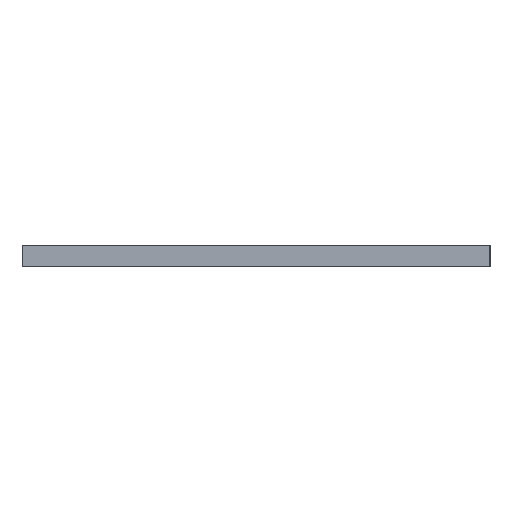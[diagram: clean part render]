
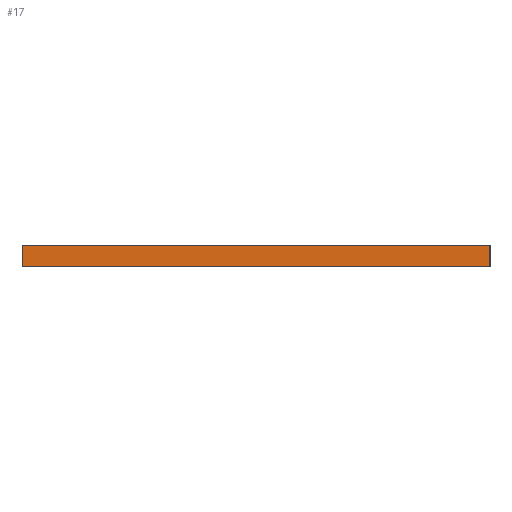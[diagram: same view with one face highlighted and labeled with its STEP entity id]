
A CAD part, left-side view. The second image highlights one B-rep face of the part: STEP entity #17.
In plain terms, the highlighted planar face has unit normal (-1, 0, 0).
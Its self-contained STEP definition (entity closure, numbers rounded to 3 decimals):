
#17 = ADVANCED_FACE('',(#18),#32,.F.);
#18 = FACE_BOUND('',#19,.F.);
#19 = EDGE_LOOP('',(#20,#55,#83,#111));
#20 = ORIENTED_EDGE('',*,*,#21,.F.);
#21 = EDGE_CURVE('',#22,#24,#26,.T.);
#22 = VERTEX_POINT('',#23);
#23 = CARTESIAN_POINT('',(-83.,-65.,791.));
#24 = VERTEX_POINT('',#25);
#25 = CARTESIAN_POINT('',(-83.,-65.,797.));
#26 = SURFACE_CURVE('',#27,(#31,#43),.PCURVE_S1.);
#27 = LINE('',#28,#29);
#28 = CARTESIAN_POINT('',(-83.,-65.,791.));
#29 = VECTOR('',#30,1.);
#30 = DIRECTION('',(0.,0.,1.));
#31 = PCURVE('',#32,#37);
#32 = PLANE('',#33);
#33 = AXIS2_PLACEMENT_3D('',#34,#35,#36);
#34 = CARTESIAN_POINT('',(-83.,-65.,791.));
#35 = DIRECTION('',(1.,0.,-0.));
#36 = DIRECTION('',(0.,0.,1.));
#37 = DEFINITIONAL_REPRESENTATION('',(#38),#42);
#38 = LINE('',#39,#40);
#39 = CARTESIAN_POINT('',(0.,0.));
#40 = VECTOR('',#41,1.);
#41 = DIRECTION('',(1.,0.));
#42 = ( GEOMETRIC_REPRESENTATION_CONTEXT(2) 
PARAMETRIC_REPRESENTATION_CONTEXT() REPRESENTATION_CONTEXT('2D SPACE',''
  ) );
#43 = PCURVE('',#44,#49);
#44 = PLANE('',#45);
#45 = AXIS2_PLACEMENT_3D('',#46,#47,#48);
#46 = CARTESIAN_POINT('',(-83.,-65.,791.));
#47 = DIRECTION('',(-0.,1.,0.));
#48 = DIRECTION('',(0.,0.,1.));
#49 = DEFINITIONAL_REPRESENTATION('',(#50),#54);
#50 = LINE('',#51,#52);
#51 = CARTESIAN_POINT('',(0.,0.));
#52 = VECTOR('',#53,1.);
#53 = DIRECTION('',(1.,0.));
#54 = ( GEOMETRIC_REPRESENTATION_CONTEXT(2) 
PARAMETRIC_REPRESENTATION_CONTEXT() REPRESENTATION_CONTEXT('2D SPACE',''
  ) );
#55 = ORIENTED_EDGE('',*,*,#56,.T.);
#56 = EDGE_CURVE('',#22,#57,#59,.T.);
#57 = VERTEX_POINT('',#58);
#58 = CARTESIAN_POINT('',(-83.,65.,791.));
#59 = SURFACE_CURVE('',#60,(#64,#71),.PCURVE_S1.);
#60 = LINE('',#61,#62);
#61 = CARTESIAN_POINT('',(-83.,-65.,791.));
#62 = VECTOR('',#63,1.);
#63 = DIRECTION('',(-0.,1.,0.));
#64 = PCURVE('',#32,#65);
#65 = DEFINITIONAL_REPRESENTATION('',(#66),#70);
#66 = LINE('',#67,#68);
#67 = CARTESIAN_POINT('',(0.,0.));
#68 = VECTOR('',#69,1.);
#69 = DIRECTION('',(0.,-1.));
#70 = ( GEOMETRIC_REPRESENTATION_CONTEXT(2) 
PARAMETRIC_REPRESENTATION_CONTEXT() REPRESENTATION_CONTEXT('2D SPACE',''
  ) );
#71 = PCURVE('',#72,#77);
#72 = PLANE('',#73);
#73 = AXIS2_PLACEMENT_3D('',#74,#75,#76);
#74 = CARTESIAN_POINT('',(-83.,-65.,791.));
#75 = DIRECTION('',(0.,0.,1.));
#76 = DIRECTION('',(1.,0.,-0.));
#77 = DEFINITIONAL_REPRESENTATION('',(#78),#82);
#78 = LINE('',#79,#80);
#79 = CARTESIAN_POINT('',(0.,0.));
#80 = VECTOR('',#81,1.);
#81 = DIRECTION('',(0.,1.));
#82 = ( GEOMETRIC_REPRESENTATION_CONTEXT(2) 
PARAMETRIC_REPRESENTATION_CONTEXT() REPRESENTATION_CONTEXT('2D SPACE',''
  ) );
#83 = ORIENTED_EDGE('',*,*,#84,.T.);
#84 = EDGE_CURVE('',#57,#85,#87,.T.);
#85 = VERTEX_POINT('',#86);
#86 = CARTESIAN_POINT('',(-83.,65.,797.));
#87 = SURFACE_CURVE('',#88,(#92,#99),.PCURVE_S1.);
#88 = LINE('',#89,#90);
#89 = CARTESIAN_POINT('',(-83.,65.,791.));
#90 = VECTOR('',#91,1.);
#91 = DIRECTION('',(0.,0.,1.));
#92 = PCURVE('',#32,#93);
#93 = DEFINITIONAL_REPRESENTATION('',(#94),#98);
#94 = LINE('',#95,#96);
#95 = CARTESIAN_POINT('',(0.,-130.));
#96 = VECTOR('',#97,1.);
#97 = DIRECTION('',(1.,0.));
#98 = ( GEOMETRIC_REPRESENTATION_CONTEXT(2) 
PARAMETRIC_REPRESENTATION_CONTEXT() REPRESENTATION_CONTEXT('2D SPACE',''
  ) );
#99 = PCURVE('',#100,#105);
#100 = PLANE('',#101);
#101 = AXIS2_PLACEMENT_3D('',#102,#103,#104);
#102 = CARTESIAN_POINT('',(-83.,65.,791.));
#103 = DIRECTION('',(-0.,1.,0.));
#104 = DIRECTION('',(0.,0.,1.));
#105 = DEFINITIONAL_REPRESENTATION('',(#106),#110);
#106 = LINE('',#107,#108);
#107 = CARTESIAN_POINT('',(0.,0.));
#108 = VECTOR('',#109,1.);
#109 = DIRECTION('',(1.,0.));
#110 = ( GEOMETRIC_REPRESENTATION_CONTEXT(2) 
PARAMETRIC_REPRESENTATION_CONTEXT() REPRESENTATION_CONTEXT('2D SPACE',''
  ) );
#111 = ORIENTED_EDGE('',*,*,#112,.F.);
#112 = EDGE_CURVE('',#24,#85,#113,.T.);
#113 = SURFACE_CURVE('',#114,(#118,#125),.PCURVE_S1.);
#114 = LINE('',#115,#116);
#115 = CARTESIAN_POINT('',(-83.,-65.,797.));
#116 = VECTOR('',#117,1.);
#117 = DIRECTION('',(-0.,1.,0.));
#118 = PCURVE('',#32,#119);
#119 = DEFINITIONAL_REPRESENTATION('',(#120),#124);
#120 = LINE('',#121,#122);
#121 = CARTESIAN_POINT('',(6.,0.));
#122 = VECTOR('',#123,1.);
#123 = DIRECTION('',(0.,-1.));
#124 = ( GEOMETRIC_REPRESENTATION_CONTEXT(2) 
PARAMETRIC_REPRESENTATION_CONTEXT() REPRESENTATION_CONTEXT('2D SPACE',''
  ) );
#125 = PCURVE('',#126,#131);
#126 = PLANE('',#127);
#127 = AXIS2_PLACEMENT_3D('',#128,#129,#130);
#128 = CARTESIAN_POINT('',(-83.,-65.,797.));
#129 = DIRECTION('',(0.,0.,1.));
#130 = DIRECTION('',(1.,0.,-0.));
#131 = DEFINITIONAL_REPRESENTATION('',(#132),#136);
#132 = LINE('',#133,#134);
#133 = CARTESIAN_POINT('',(0.,0.));
#134 = VECTOR('',#135,1.);
#135 = DIRECTION('',(0.,1.));
#136 = ( GEOMETRIC_REPRESENTATION_CONTEXT(2) 
PARAMETRIC_REPRESENTATION_CONTEXT() REPRESENTATION_CONTEXT('2D SPACE',''
  ) );
